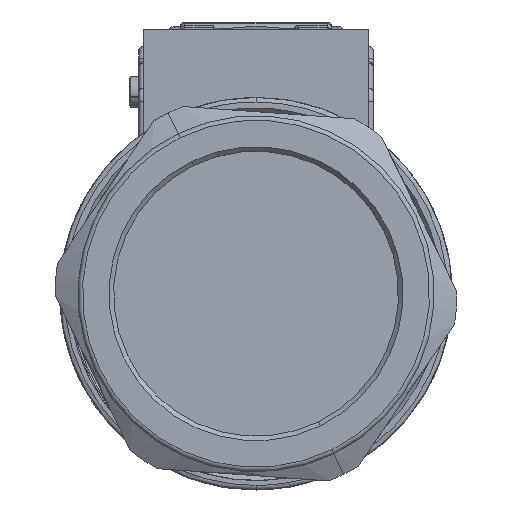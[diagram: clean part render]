
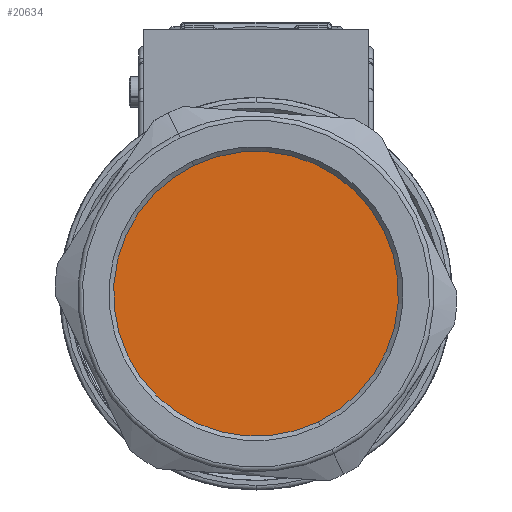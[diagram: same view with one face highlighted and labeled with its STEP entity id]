
A CAD part, front view. The second image highlights one B-rep face of the part: STEP entity #20634.
In plain terms, the highlighted planar face has unit normal (0, -1, 0).
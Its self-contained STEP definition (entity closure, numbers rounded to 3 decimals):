
#1812 = EDGE_LOOP ( 'NONE', ( #23737, #12119 ) ) ;
#3671 = CARTESIAN_POINT ( 'NONE',  ( 0., -73.742, 0. ) ) ;
#7040 = AXIS2_PLACEMENT_3D ( 'NONE', #31922, #27175, #21207 ) ;
#7957 = VERTEX_POINT ( 'NONE', #26732 ) ;
#10457 = FACE_OUTER_BOUND ( 'NONE', #1812, .T. ) ;
#10838 = CIRCLE ( 'NONE', #15234, 9.4 ) ;
#12119 = ORIENTED_EDGE ( 'NONE', *, *, #32634, .F. ) ;
#13462 = CARTESIAN_POINT ( 'NONE',  ( 4.108, -73.742, -8.455 ) ) ;
#14244 = DIRECTION ( 'NONE',  ( 0., 1., 0. ) ) ;
#14485 = DIRECTION ( 'NONE',  ( 0., 0., -1. ) ) ;
#14813 = PLANE ( 'NONE',  #7040 ) ;
#15234 = AXIS2_PLACEMENT_3D ( 'NONE', #3671, #26384, #34953 ) ;
#20634 = ADVANCED_FACE ( 'NONE', ( #10457 ), #14813, .T. ) ;
#21207 = DIRECTION ( 'NONE',  ( 0., 0., -1. ) ) ;
#23529 = CIRCLE ( 'NONE', #30993, 9.4 ) ;
#23737 = ORIENTED_EDGE ( 'NONE', *, *, #34712, .F. ) ;
#26384 = DIRECTION ( 'NONE',  ( 0., 1., 0. ) ) ;
#26732 = CARTESIAN_POINT ( 'NONE',  ( -4.108, -73.742, 8.455 ) ) ;
#27175 = DIRECTION ( 'NONE',  ( 0., -1., 0. ) ) ;
#28381 = CARTESIAN_POINT ( 'NONE',  ( 0., -73.742, 0. ) ) ;
#30993 = AXIS2_PLACEMENT_3D ( 'NONE', #28381, #14244, #14485 ) ;
#31922 = CARTESIAN_POINT ( 'NONE',  ( 0., -73.742, 9.826 ) ) ;
#32634 = EDGE_CURVE ( 'NONE', #7957, #32849, #10838, .T. ) ;
#32849 = VERTEX_POINT ( 'NONE', #13462 ) ;
#34712 = EDGE_CURVE ( 'NONE', #32849, #7957, #23529, .T. ) ;
#34953 = DIRECTION ( 'NONE',  ( 0., 0., -1. ) ) ;
